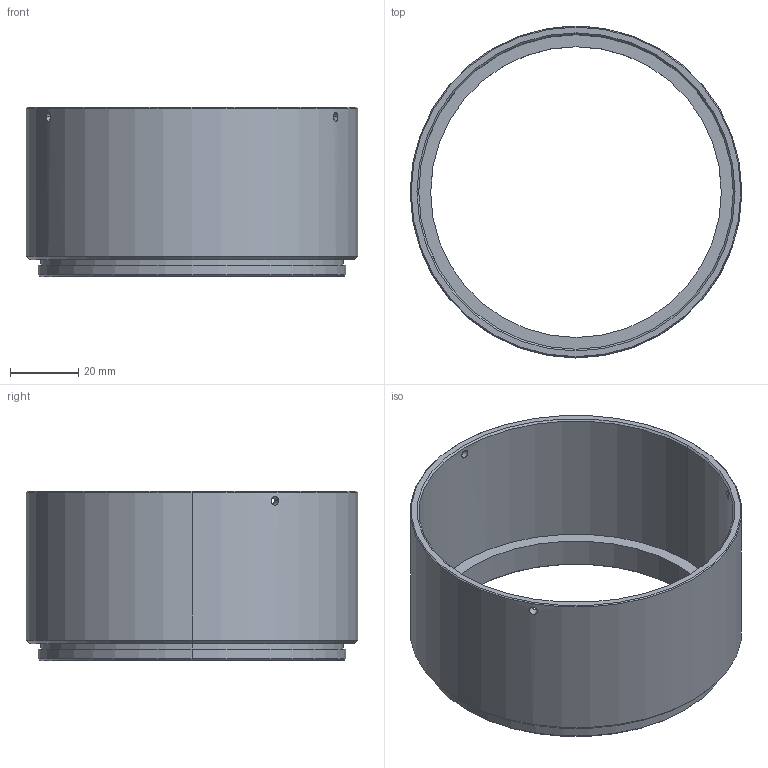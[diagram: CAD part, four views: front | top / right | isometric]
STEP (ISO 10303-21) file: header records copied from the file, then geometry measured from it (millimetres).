
FILE_DESCRIPTION (( 'STEP AP214' ), '1' );
FILE_NAME ('CA-V92M90-12.0.STEP', '2026-03-03T00:58:24', ( '' ), ( '' ), 'SwSTEP 2.0', 'SolidWorks 2025', '' );
FILE_SCHEMA (( 'AUTOMOTIVE_DESIGN' ));
Length unit declared in the file: millimetre
Products named in the file (1): CA-V92M90-12.0
Bounding box: 97 x 97 x 49.5 mm (x, y, z)
Volume: 39225.9 mm3; surface area: 32546.9 mm2
Topology: 1 solids, 1 shells, 31 faces, 68 edges, 42 vertices
Faces by surface type: cylinder 16, cone 10, plane 5
Entity records: 1095 total; most frequent: CARTESIAN_POINT 370, DIRECTION 150, ORIENTED_EDGE 136, EDGE_CURVE 68, AXIS2_PLACEMENT_3D 62, EDGE_LOOP 42, VERTEX_POINT 42, ADVANCED_FACE 31
